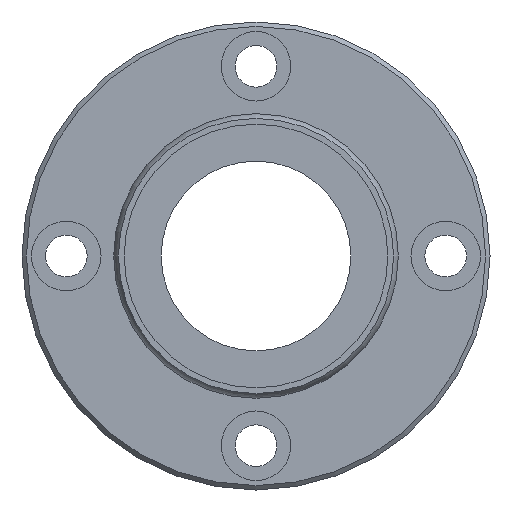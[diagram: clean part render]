
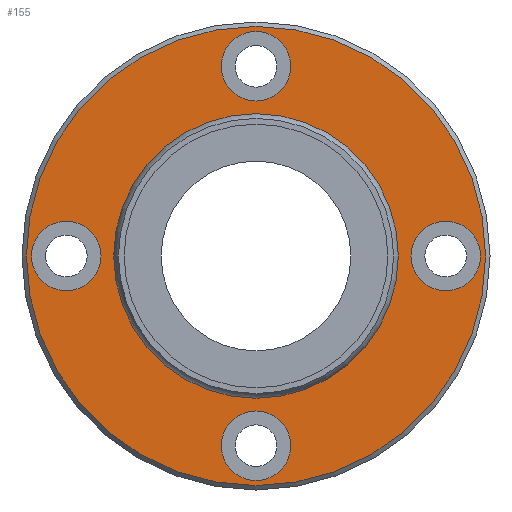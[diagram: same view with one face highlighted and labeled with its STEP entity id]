
A CAD part, left-side view. The second image highlights one B-rep face of the part: STEP entity #155.
In plain terms, the highlighted planar face has unit normal (-1, 0, 0).
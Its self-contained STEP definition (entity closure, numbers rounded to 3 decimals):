
#60=CARTESIAN_POINT('',(61.5,0.,36.3));
#61=VERTEX_POINT('',#60);
#62=CARTESIAN_POINT('',(61.5,0.0,0.0));
#63=DIRECTION('',(1.0,0.0,0.0));
#64=DIRECTION('',(0.0,0.0,-1.0));
#65=AXIS2_PLACEMENT_3D('',#62,#63,#64);
#66=CIRCLE('',#65,36.3);
#67=EDGE_CURVE('',#61,#61,#66,.T.);
#92=CARTESIAN_POINT('',(61.5,0.0,29.563));
#93=DIRECTION('',(-1.0,0.0,0.0));
#94=DIRECTION('',(0.0,0.0,1.0));
#95=AXIS2_PLACEMENT_3D('',#92,#93,#94);
#96=PLANE('',#95);
#97=ORIENTED_EDGE('',*,*,#67,.F.);
#98=EDGE_LOOP('',(#97));
#99=FACE_OUTER_BOUND('',#98,.T.);
#100=CARTESIAN_POINT('',(61.5,0.0,22.127));
#101=VERTEX_POINT('',#100);
#102=CARTESIAN_POINT('',(61.5,0.0,0.0));
#103=DIRECTION('',(-1.0,0.0,0.0));
#104=DIRECTION('',(0.0,0.0,1.0));
#105=AXIS2_PLACEMENT_3D('',#102,#103,#104);
#106=CIRCLE('',#105,22.127);
#107=EDGE_CURVE('',#101,#101,#106,.T.);
#108=ORIENTED_EDGE('',*,*,#107,.F.);
#109=EDGE_LOOP('',(#108));
#110=FACE_BOUND('',#109,.T.);
#111=CARTESIAN_POINT('',(61.5,-24.5,0.));
#112=VERTEX_POINT('',#111);
#113=CARTESIAN_POINT('',(61.5,-30.0,0.));
#114=DIRECTION('',(1.0,0.0,0.0));
#115=DIRECTION('',(0.0,1.0,0.0));
#116=AXIS2_PLACEMENT_3D('',#113,#114,#115);
#117=CIRCLE('',#116,5.5);
#118=EDGE_CURVE('',#112,#112,#117,.T.);
#119=ORIENTED_EDGE('',*,*,#118,.T.);
#120=EDGE_LOOP('',(#119));
#121=FACE_BOUND('',#120,.T.);
#122=CARTESIAN_POINT('',(61.5,35.5,0.));
#123=VERTEX_POINT('',#122);
#124=CARTESIAN_POINT('',(61.5,30.0,0.));
#125=DIRECTION('',(1.0,0.0,0.0));
#126=DIRECTION('',(0.0,1.0,0.0));
#127=AXIS2_PLACEMENT_3D('',#124,#125,#126);
#128=CIRCLE('',#127,5.5);
#129=EDGE_CURVE('',#123,#123,#128,.T.);
#130=ORIENTED_EDGE('',*,*,#129,.T.);
#131=EDGE_LOOP('',(#130));
#132=FACE_BOUND('',#131,.T.);
#133=CARTESIAN_POINT('',(61.5,5.5,30.0));
#134=VERTEX_POINT('',#133);
#135=CARTESIAN_POINT('',(61.5,0.,30.0));
#136=DIRECTION('',(1.0,0.0,0.0));
#137=DIRECTION('',(0.0,1.0,0.0));
#138=AXIS2_PLACEMENT_3D('',#135,#136,#137);
#139=CIRCLE('',#138,5.5);
#140=EDGE_CURVE('',#134,#134,#139,.T.);
#141=ORIENTED_EDGE('',*,*,#140,.T.);
#142=EDGE_LOOP('',(#141));
#143=FACE_BOUND('',#142,.T.);
#144=CARTESIAN_POINT('',(61.5,5.5,-30.0));
#145=VERTEX_POINT('',#144);
#146=CARTESIAN_POINT('',(61.5,0.,-30.0));
#147=DIRECTION('',(1.0,0.0,0.0));
#148=DIRECTION('',(0.0,1.0,0.0));
#149=AXIS2_PLACEMENT_3D('',#146,#147,#148);
#150=CIRCLE('',#149,5.5);
#151=EDGE_CURVE('',#145,#145,#150,.T.);
#152=ORIENTED_EDGE('',*,*,#151,.T.);
#153=EDGE_LOOP('',(#152));
#154=FACE_BOUND('',#153,.T.);
#155=ADVANCED_FACE('',(#99,#110,#121,#132,#143,#154),#96,.T.);
